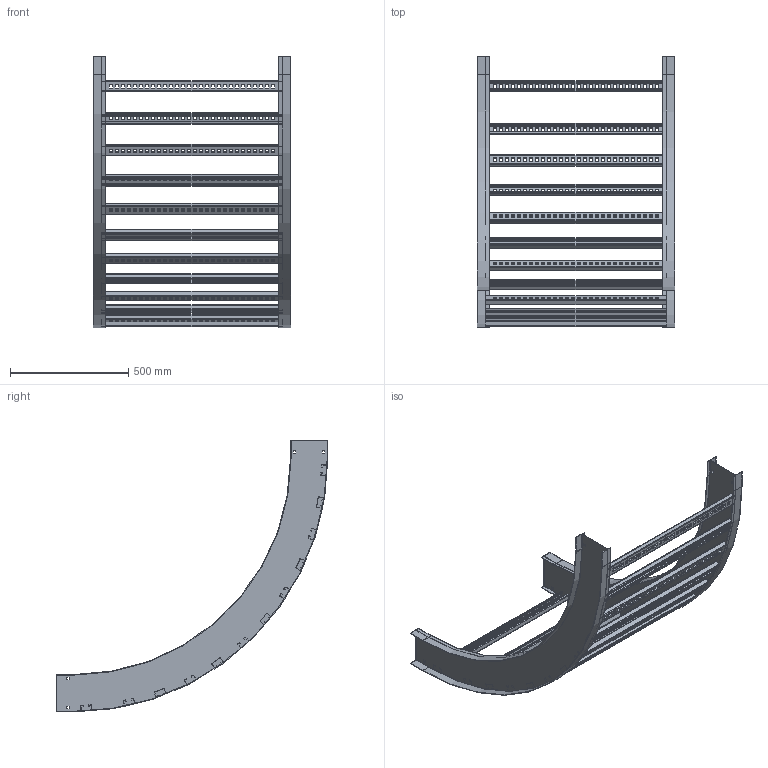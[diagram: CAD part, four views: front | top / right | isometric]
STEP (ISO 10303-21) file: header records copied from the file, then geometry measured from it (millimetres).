
FILE_DESCRIPTION((''),'2;1');
FILE_NAME('AHF630VVI9036_ASM','2010-01-28T',('erouzier'),(''),'PRO/ENGINEER BY PARAMETRIC TECHNOLOGY CORPORATION, 2008510','PRO/ENGINEER BY PARAMETRIC TECHNOLOGY CORPORATION, 2008510','');
FILE_SCHEMA(('CONFIG_CONTROL_DESIGN'));
Length unit declared in the file: inch
Products named in the file (3): CDS001658_6_90_36; CDS002159L30-P; AHF630VVI9036_ASM
Assembly tree (14 placements, depth 2):
  AHF630VVI9036_ASM
    CDS001658_6_90_36  x2
    CDS002159L30-P  x12
Bounding box: 836.42 x 1148.59 x 1148.59 mm (x, y, z)
Volume: 3387011.6 mm3; surface area: 3779269.2 mm2
Topology: 14 solids, 14 shells, 3132 faces, 9312 edges, 6208 vertices
Faces by surface type: plane 1644, cylinder 1488
Entity records: 10256 total; most frequent: CARTESIAN_POINT 1773, DIRECTION 1760, ORIENTED_EDGE 1752, EDGE_CURVE 876, VECTOR 618, LINE 618, VERTEX_POINT 584, AXIS2_PLACEMENT_3D 571
